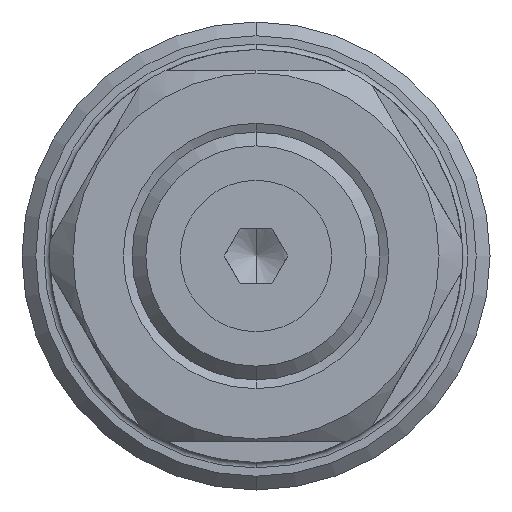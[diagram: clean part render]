
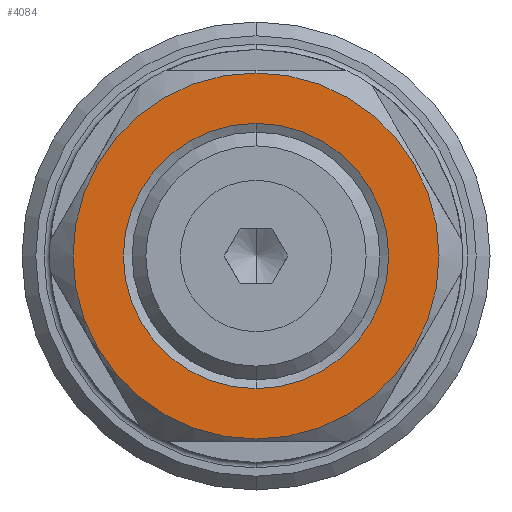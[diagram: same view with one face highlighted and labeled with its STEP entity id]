
A CAD part, left-side view. The second image highlights one B-rep face of the part: STEP entity #4084.
In plain terms, the highlighted planar face has unit normal (-1, 0, 0).
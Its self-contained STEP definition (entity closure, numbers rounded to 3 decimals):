
#240 = ORIENTED_EDGE ( 'NONE', *, *, #719, .F. ) ;
#265 = AXIS2_PLACEMENT_3D ( 'NONE', #1108, #6067, #1856 ) ;
#315 = DIRECTION ( 'NONE',  ( 0., 0., 1. ) ) ;
#324 = DIRECTION ( 'NONE',  ( 1., 0., 0. ) ) ;
#327 = CARTESIAN_POINT ( 'NONE',  ( -80., 0., 0. ) ) ;
#625 = AXIS2_PLACEMENT_3D ( 'NONE', #10018, #5177, #5210 ) ;
#718 = EDGE_CURVE ( 'NONE', #9231, #8145, #3860, .T. ) ;
#719 = EDGE_CURVE ( 'NONE', #4142, #7460, #2488, .T. ) ;
#734 = EDGE_LOOP ( 'NONE', ( #11260, #240 ) ) ;
#1108 = CARTESIAN_POINT ( 'NONE',  ( -80., 0., 0. ) ) ;
#1552 = CARTESIAN_POINT ( 'NONE',  ( -80., 0., 13.3 ) ) ;
#1766 = DIRECTION ( 'NONE',  ( 0., 0., 1. ) ) ;
#1778 = DIRECTION ( 'NONE',  ( -1., 0., 0. ) ) ;
#1856 = DIRECTION ( 'NONE',  ( 0., 0., -1. ) ) ;
#2033 = PLANE ( 'NONE',  #3132 ) ;
#2488 = CIRCLE ( 'NONE', #10621, 13.3 ) ;
#2686 = FACE_OUTER_BOUND ( 'NONE', #734, .T. ) ;
#2895 = CARTESIAN_POINT ( 'NONE',  ( -80., 0., 9.636 ) ) ;
#2920 = EDGE_CURVE ( 'NONE', #7460, #4142, #10823, .T. ) ;
#3132 = AXIS2_PLACEMENT_3D ( 'NONE', #5386, #1778, #1766 ) ;
#3860 = CIRCLE ( 'NONE', #625, 9.636 ) ;
#4084 = ADVANCED_FACE ( 'NONE', ( #7173, #2686 ), #2033, .T. ) ;
#4142 = VERTEX_POINT ( 'NONE', #1552 ) ;
#4274 = CIRCLE ( 'NONE', #7778, 9.636 ) ;
#4339 = EDGE_CURVE ( 'NONE', #8145, #9231, #4274, .T. ) ;
#4364 = ORIENTED_EDGE ( 'NONE', *, *, #718, .T. ) ;
#5177 = DIRECTION ( 'NONE',  ( 1., 0., 0. ) ) ;
#5210 = DIRECTION ( 'NONE',  ( 0., 0., 1. ) ) ;
#5386 = CARTESIAN_POINT ( 'NONE',  ( -80., 13.3, 0. ) ) ;
#5684 = ORIENTED_EDGE ( 'NONE', *, *, #4339, .T. ) ;
#5837 = EDGE_LOOP ( 'NONE', ( #5684, #4364 ) ) ;
#6067 = DIRECTION ( 'NONE',  ( 1., 0., 0. ) ) ;
#6133 = DIRECTION ( 'NONE',  ( 0., 0., -1. ) ) ;
#6208 = DIRECTION ( 'NONE',  ( 1., 0., 0. ) ) ;
#7055 = CARTESIAN_POINT ( 'NONE',  ( -80., 0., 0. ) ) ;
#7173 = FACE_BOUND ( 'NONE', #5837, .T. ) ;
#7460 = VERTEX_POINT ( 'NONE', #10782 ) ;
#7778 = AXIS2_PLACEMENT_3D ( 'NONE', #327, #324, #315 ) ;
#7911 = CARTESIAN_POINT ( 'NONE',  ( -80., 0., -9.636 ) ) ;
#8145 = VERTEX_POINT ( 'NONE', #2895 ) ;
#9231 = VERTEX_POINT ( 'NONE', #7911 ) ;
#10018 = CARTESIAN_POINT ( 'NONE',  ( -80., 0., 0. ) ) ;
#10621 = AXIS2_PLACEMENT_3D ( 'NONE', #7055, #6208, #6133 ) ;
#10782 = CARTESIAN_POINT ( 'NONE',  ( -80., 0., -13.3 ) ) ;
#10823 = CIRCLE ( 'NONE', #265, 13.3 ) ;
#11260 = ORIENTED_EDGE ( 'NONE', *, *, #2920, .F. ) ;
